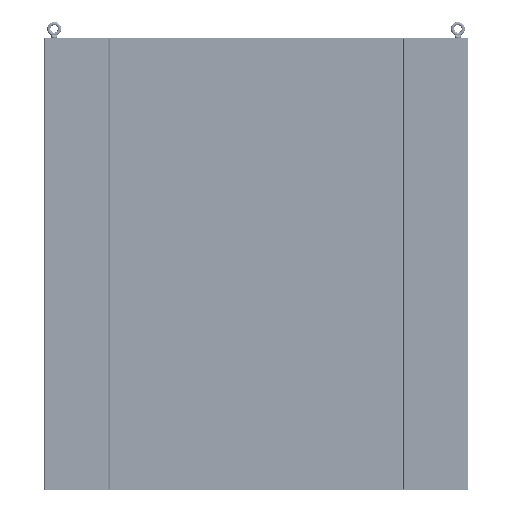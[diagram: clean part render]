
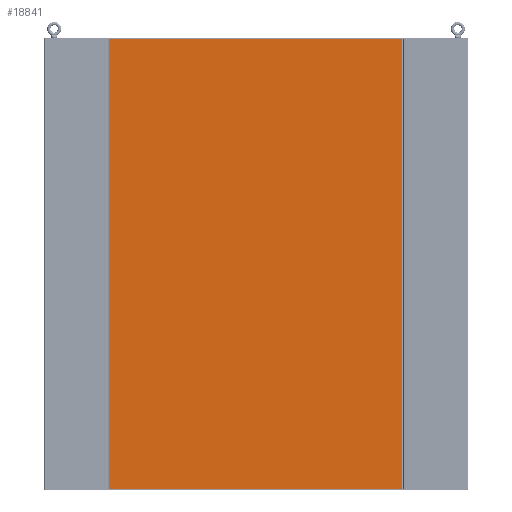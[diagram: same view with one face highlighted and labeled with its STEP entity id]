
A CAD part, front view. The second image highlights one B-rep face of the part: STEP entity #18841.
In plain terms, the highlighted planar face has unit normal (0, -1, 0) as drawn and (0, 0, -1) by its records, which use the part's own axes.
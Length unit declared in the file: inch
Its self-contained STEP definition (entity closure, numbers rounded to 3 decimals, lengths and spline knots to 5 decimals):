
#18377=DIRECTION('',(0.,-1.,0.));
#18378=VECTOR('',#18377,83.75);
#18379=CARTESIAN_POINT('',(-27.125,0.,-0.125));
#18380=LINE('',#18379,#18378);
#18392=DIRECTION('',(1.,0.,0.));
#18393=VECTOR('',#18392,54.25);
#18394=CARTESIAN_POINT('',(-27.125,-83.75,-0.125));
#18395=LINE('',#18394,#18393);
#18399=DIRECTION('',(-1.,0.,0.));
#18400=VECTOR('',#18399,54.25);
#18401=CARTESIAN_POINT('',(27.125,0.,-0.125));
#18402=LINE('',#18401,#18400);
#18435=DIRECTION('',(0.,1.,0.));
#18436=VECTOR('',#18435,83.75);
#18437=CARTESIAN_POINT('',(27.125,-83.75,-0.125));
#18438=LINE('',#18437,#18436);
#18642=CARTESIAN_POINT('',(-27.125,-83.75,-0.125));
#18643=VERTEX_POINT('',#18642);
#18644=CARTESIAN_POINT('',(-27.125,0.,-0.125));
#18645=VERTEX_POINT('',#18644);
#18674=CARTESIAN_POINT('',(27.125,0.,-0.125));
#18675=VERTEX_POINT('',#18674);
#18676=CARTESIAN_POINT('',(27.125,-83.75,-0.125));
#18677=VERTEX_POINT('',#18676);
#18827=CARTESIAN_POINT('',(0.,0.,-0.125));
#18828=DIRECTION('',(0.,0.,1.));
#18829=DIRECTION('',(1.,0.,0.));
#18830=AXIS2_PLACEMENT_3D('',#18827,#18828,#18829);
#18831=PLANE('',#18830);
#18832=ORIENTED_EDGE('',*,*,#18820,.T.);
#18834=ORIENTED_EDGE('',*,*,#18833,.T.);
#18836=ORIENTED_EDGE('',*,*,#18835,.T.);
#18838=ORIENTED_EDGE('',*,*,#18837,.T.);
#18839=EDGE_LOOP('',(#18832,#18834,#18836,#18838));
#18840=FACE_OUTER_BOUND('',#18839,.F.);
#18820=EDGE_CURVE('',#18645,#18643,#18380,.T.);
#18833=EDGE_CURVE('',#18643,#18677,#18395,.T.);
#18835=EDGE_CURVE('',#18677,#18675,#18438,.T.);
#18837=EDGE_CURVE('',#18675,#18645,#18402,.T.);
#18841=ADVANCED_FACE('',(#18840),#18831,.F.);
